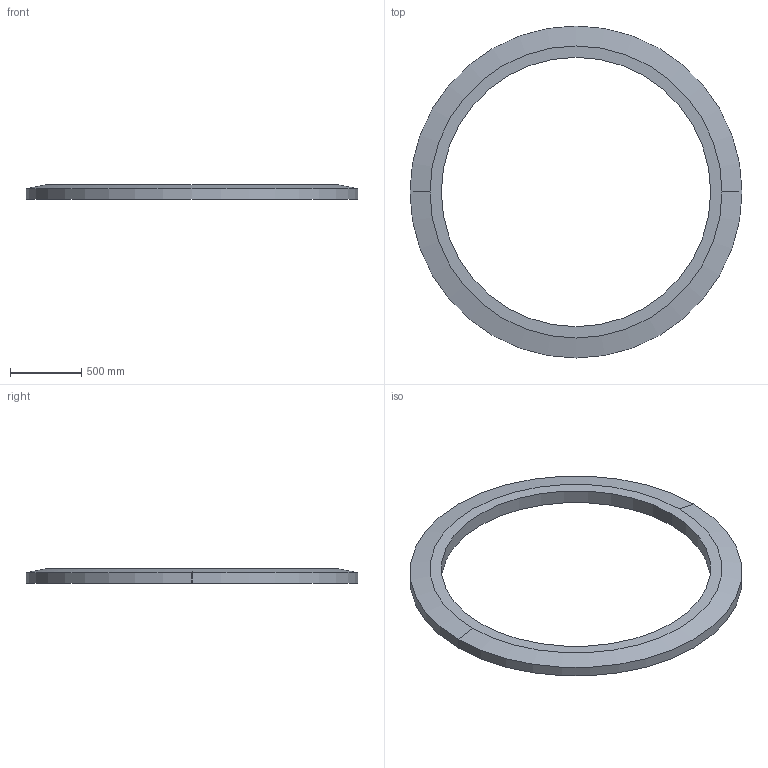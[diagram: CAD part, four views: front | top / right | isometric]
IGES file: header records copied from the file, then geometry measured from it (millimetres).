
Start section:  PTC IGES file: coil.igs
Global section: file name: coil.igs; native system: Pro/ENGINEER by Parametric Technology Corporation; preprocessor: 1999260; author: oshatz; organization: Unknown; date: 000922.101652; units: millimetre
Bounding box: 2330 x 2330 x 100 mm (x, y, z)
Surface area: 4062520.7 mm2 (no closed solid volume)
Topology: 0 solids, 0 shells, 8 faces, 32 edges, 32 vertices
Faces by surface type: revolution 6, bspline 2
